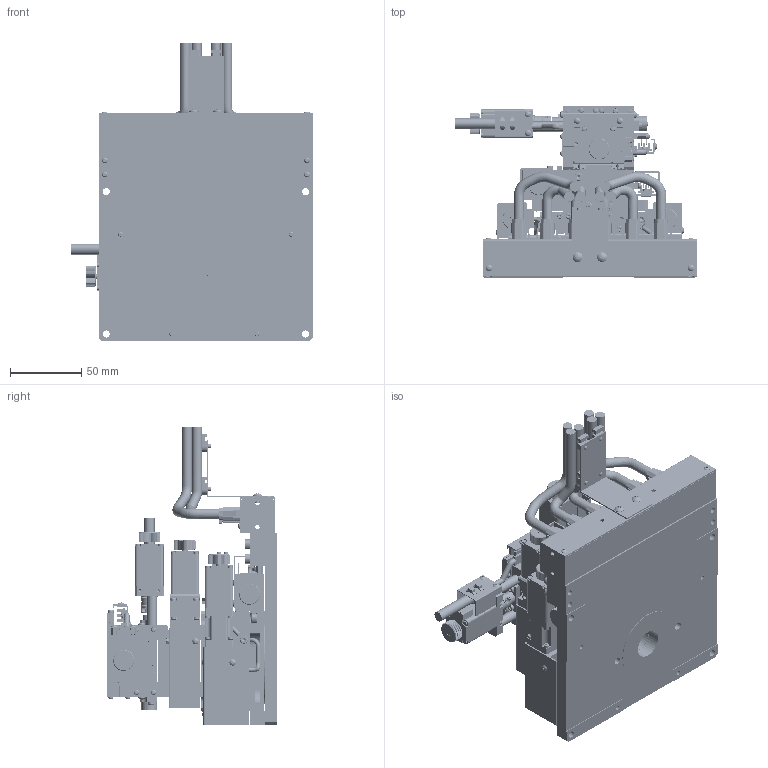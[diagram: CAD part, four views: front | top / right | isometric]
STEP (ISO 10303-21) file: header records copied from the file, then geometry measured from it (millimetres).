
FILE_DESCRIPTION (( 'STEP AP203' ), '1' );
FILE_NAME ('DR117447-0001-000-00.STEP', '2020-10-01T02:29:41', ( '' ), ( '' ), 'SwSTEP 2.0', 'SolidWorks 2018', '' );
FILE_SCHEMA (( 'CONFIG_CONTROL_DESIGN' ));
Length unit declared in the file: millimetre
Products named in the file (41): table; ｹｰﾌﾞﾙ3; 運搬治具; HRS_DF62C-13S-2.2C-3; 俅偷-1; ｹｰﾌﾞﾙ5; 回転中心-Part-1; HRS_DF62C-13S-2.2C-5; HRS_DF62C-13S-2.2C-2; 配線ﾕﾆｯﾄﾍﾞｰｽ; 榋妏寠晅无倌_M4_12; table-Part-1; Xﾃｰﾌﾞﾙ; ﾃｰﾌﾞﾙ; 榋妏寠晅无倌_M3_6-3; ｹｰﾌﾞﾙ2; 榋妏寠晅无倌_M4_12-1; HRS_DF62C-13S-2.2C-1; ｹｰﾌﾞﾙ4; DR117447-0001-000-00; 榋妏寠晅无倌_M3_8; ｹｰﾌﾞﾙ6; 榋妏寠晅无倌_M3_6; 榋妏寠晅无倌_M3_8-2; ｹｰﾌﾞﾙ1; 榋妏寠晅无倌_M4_12-3; 僭枌椓軝杺俅偷; 榋妏寠晅无倌_M3_8-1; Yﾃｰﾌﾞﾙ; 榋妏寠晅无倌_M3_6-2; 榋妏寠晅无倌_M3_6-1; 榋妏寠晅无倌_M4_12-2; 俅偷; base; 蜓咑; base-1; HRS_DF62C-13S-2.2C; 榋妏寠晅无倌_M3_8-3; HRS_DF62C-13S-2.2C-4; 回転ﾃｰﾌﾞﾙ
Assembly tree (39 placements, depth 3):
  回転中心-Part-1
  DR117447-0001-000-00
    table
      table-Part-1
    榋妏寠晅无倌_M3_6
    榋妏寠晅无倌_M3_6-1
    榋妏寠晅无倌_M3_6-2
    榋妏寠晅无倌_M3_6-3
    蜓咑
    ﾃｰﾌﾞﾙ
    俅偷
    Xﾃｰﾌﾞﾙ
    Yﾃｰﾌﾞﾙ
    俅偷-1
    回転ﾃｰﾌﾞﾙ
    運搬治具
    僭枌椓軝杺俅偷
    ｹｰﾌﾞﾙ1
    ｹｰﾌﾞﾙ2
    ｹｰﾌﾞﾙ3
    ｹｰﾌﾞﾙ4
    ｹｰﾌﾞﾙ5
    ｹｰﾌﾞﾙ6
    HRS_DF62C-13S-2.2C
    HRS_DF62C-13S-2.2C-1
    HRS_DF62C-13S-2.2C-2
    HRS_DF62C-13S-2.2C-3
    HRS_DF62C-13S-2.2C-4
    HRS_DF62C-13S-2.2C-5
    配線ﾕﾆｯﾄﾍﾞｰｽ
    榋妏寠晅无倌_M3_8
    榋妏寠晅无倌_M3_8-1
    榋妏寠晅无倌_M3_8-2
    榋妏寠晅无倌_M3_8-3
    榋妏寠晅无倌_M4_12
    榋妏寠晅无倌_M4_12-1
    榋妏寠晅无倌_M4_12-2
    榋妏寠晅无倌_M4_12-3
    table
    base
    base-1
Bounding box: 169.5 x 120 x 209.5 mm (x, y, z)
Volume: 836733.7 mm3; surface area: 388740.7 mm2
Topology: 42 solids, 222 shells, 17125 faces, 43457 edges, 26922 vertices
Faces by surface type: plane 10810, cylinder 3966, cone 1673, torus 490, sphere 144, bspline 42
Entity records: 523019 total; most frequent: CARTESIAN_POINT 106203, ORIENTED_EDGE 85608, DIRECTION 85362, EDGE_CURVE 42804, VECTOR 28500, LINE 28500, AXIS2_PLACEMENT_3D 28431, VERTEX_POINT 26914
